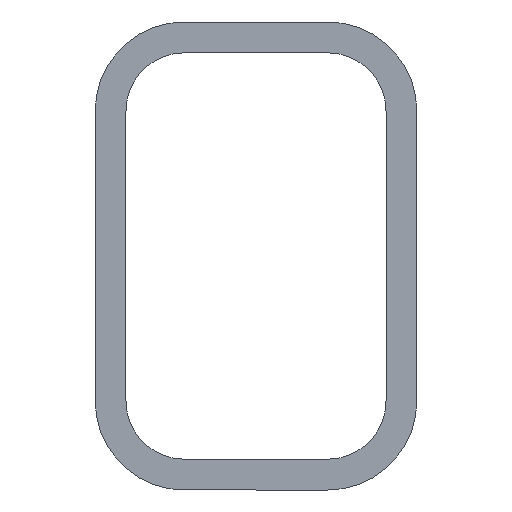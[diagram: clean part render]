
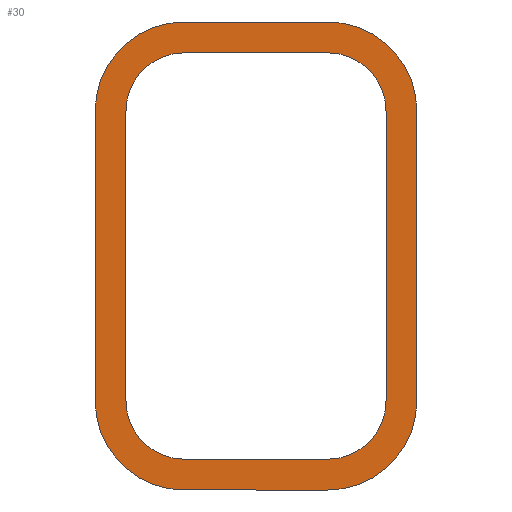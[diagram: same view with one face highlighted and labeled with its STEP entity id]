
A CAD part, front view. The second image highlights one B-rep face of the part: STEP entity #30.
In plain terms, the highlighted planar face has unit normal (0, -1, 0).
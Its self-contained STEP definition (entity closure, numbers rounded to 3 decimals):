
#13 = AXIS2_PLACEMENT_3D ( 'NONE', #159, #66, #486 ) ;
#17 = VERTEX_POINT ( 'NONE', #442 ) ;
#20 = FACE_OUTER_BOUND ( 'NONE', #224, .T. ) ;
#21 = EDGE_CURVE ( 'NONE', #289, #375, #392, .T. ) ;
#26 = CARTESIAN_POINT ( 'NONE',  ( -12.235, 0., -34.735 ) ) ;
#27 = EDGE_CURVE ( 'NONE', #454, #384, #568, .T. ) ;
#29 = CARTESIAN_POINT ( 'NONE',  ( -22.235, 0., 24.735 ) ) ;
#30 = ADVANCED_FACE ( 'NONE', ( #20, #478 ), #580, .F. ) ;
#31 = CARTESIAN_POINT ( 'NONE',  ( 22.235, 0., 24.735 ) ) ;
#32 = CARTESIAN_POINT ( 'NONE',  ( -22.235, 0., -24.735 ) ) ;
#33 = CARTESIAN_POINT ( 'NONE',  ( 27.5, 0., 24.735 ) ) ;
#37 = CARTESIAN_POINT ( 'NONE',  ( 27.5, 0., 24.735 ) ) ;
#41 = CARTESIAN_POINT ( 'NONE',  ( -12.235, 0., 40. ) ) ;
#43 = CARTESIAN_POINT ( 'NONE',  ( 22.235, 0., 24.735 ) ) ;
#52 = CARTESIAN_POINT ( 'NONE',  ( -12.235, 0., 24.735 ) ) ;
#59 = AXIS2_PLACEMENT_3D ( 'NONE', #471, #386, #335 ) ;
#62 = EDGE_CURVE ( 'NONE', #384, #211, #207, .T. ) ;
#66 = DIRECTION ( 'NONE',  ( 0., 1., 0. ) ) ;
#70 = EDGE_CURVE ( 'NONE', #267, #510, #528, .T. ) ;
#74 = DIRECTION ( 'NONE',  ( 0., 0., 1. ) ) ;
#80 = EDGE_CURVE ( 'NONE', #94, #309, #140, .T. ) ;
#85 = VERTEX_POINT ( 'NONE', #43 ) ;
#87 = EDGE_CURVE ( 'NONE', #375, #503, #327, .T. ) ;
#88 = CIRCLE ( 'NONE', #533, 10. ) ;
#89 = DIRECTION ( 'NONE',  ( 0., 0., -1. ) ) ;
#94 = VERTEX_POINT ( 'NONE', #33 ) ;
#95 = VECTOR ( 'NONE', #555, 1000. ) ;
#98 = ORIENTED_EDGE ( 'NONE', *, *, #599, .T. ) ;
#100 = VECTOR ( 'NONE', #441, 1000. ) ;
#101 = ORIENTED_EDGE ( 'NONE', *, *, #87, .T. ) ;
#103 = AXIS2_PLACEMENT_3D ( 'NONE', #180, #320, #219 ) ;
#104 = DIRECTION ( 'NONE',  ( 0., 0., 1. ) ) ;
#113 = CARTESIAN_POINT ( 'NONE',  ( -12.235, 0., 40. ) ) ;
#114 = LINE ( 'NONE', #31, #508 ) ;
#129 = ORIENTED_EDGE ( 'NONE', *, *, #80, .F. ) ;
#133 = CARTESIAN_POINT ( 'NONE',  ( 12.235, 0., -34.735 ) ) ;
#134 = CARTESIAN_POINT ( 'NONE',  ( 27.5, 0., -24.735 ) ) ;
#140 = LINE ( 'NONE', #37, #463 ) ;
#142 = LINE ( 'NONE', #333, #493 ) ;
#145 = CARTESIAN_POINT ( 'NONE',  ( 12.235, 0., -24.735 ) ) ;
#159 = CARTESIAN_POINT ( 'NONE',  ( 12.235, 0., 24.735 ) ) ;
#161 = DIRECTION ( 'NONE',  ( 0., 0., 1. ) ) ;
#168 = DIRECTION ( 'NONE',  ( 0., 0., -1. ) ) ;
#175 = AXIS2_PLACEMENT_3D ( 'NONE', #328, #516, #104 ) ;
#180 = CARTESIAN_POINT ( 'NONE',  ( -12.235, 0., 24.735 ) ) ;
#195 = VERTEX_POINT ( 'NONE', #364 ) ;
#197 = DIRECTION ( 'NONE',  ( 0., 0., 1. ) ) ;
#198 = AXIS2_PLACEMENT_3D ( 'NONE', #253, #350, #74 ) ;
#199 = ORIENTED_EDGE ( 'NONE', *, *, #353, .T. ) ;
#201 = ORIENTED_EDGE ( 'NONE', *, *, #273, .T. ) ;
#207 = LINE ( 'NONE', #387, #402 ) ;
#211 = VERTEX_POINT ( 'NONE', #308 ) ;
#219 = DIRECTION ( 'NONE',  ( 0., 0., 1. ) ) ;
#224 = EDGE_LOOP ( 'NONE', ( #230, #518, #506, #494, #426, #129, #433, #456 ) ) ;
#229 = DIRECTION ( 'NONE',  ( 0., 1., 0. ) ) ;
#230 = ORIENTED_EDGE ( 'NONE', *, *, #522, .F. ) ;
#235 = CARTESIAN_POINT ( 'NONE',  ( -12.235, 0., -34.735 ) ) ;
#251 = CARTESIAN_POINT ( 'NONE',  ( -27.5, 0., -24.735 ) ) ;
#253 = CARTESIAN_POINT ( 'NONE',  ( -12.235, 0., -24.735 ) ) ;
#258 = CIRCLE ( 'NONE', #59, 15.265 ) ;
#260 = VERTEX_POINT ( 'NONE', #133 ) ;
#263 = CIRCLE ( 'NONE', #466, 10. ) ;
#267 = VERTEX_POINT ( 'NONE', #41 ) ;
#272 = CARTESIAN_POINT ( 'NONE',  ( 12.235, 0., 40. ) ) ;
#273 = EDGE_CURVE ( 'NONE', #260, #561, #416, .T. ) ;
#276 = DIRECTION ( 'NONE',  ( 1., 0., 0. ) ) ;
#285 = DIRECTION ( 'NONE',  ( 0., 1., 0. ) ) ;
#289 = VERTEX_POINT ( 'NONE', #32 ) ;
#295 = DIRECTION ( 'NONE',  ( 1., 0., 0. ) ) ;
#297 = DIRECTION ( 'NONE',  ( 0., 1., 0. ) ) ;
#298 = AXIS2_PLACEMENT_3D ( 'NONE', #586, #432, #161 ) ;
#303 = EDGE_CURVE ( 'NONE', #17, #454, #312, .T. ) ;
#308 = CARTESIAN_POINT ( 'NONE',  ( -27.5, 0., 24.735 ) ) ;
#309 = VERTEX_POINT ( 'NONE', #134 ) ;
#312 = LINE ( 'NONE', #491, #95 ) ;
#317 = ORIENTED_EDGE ( 'NONE', *, *, #21, .T. ) ;
#320 = DIRECTION ( 'NONE',  ( 0., 1., 0. ) ) ;
#327 = CIRCLE ( 'NONE', #103, 10. ) ;
#328 = CARTESIAN_POINT ( 'NONE',  ( -12.235, 0., -24.735 ) ) ;
#329 = CIRCLE ( 'NONE', #415, 15.265 ) ;
#333 = CARTESIAN_POINT ( 'NONE',  ( -12.235, 0., 34.735 ) ) ;
#335 = DIRECTION ( 'NONE',  ( 0., 0., 1. ) ) ;
#336 = ORIENTED_EDGE ( 'NONE', *, *, #475, .T. ) ;
#339 = CIRCLE ( 'NONE', #175, 10. ) ;
#342 = DIRECTION ( 'NONE',  ( 0., 0., 1. ) ) ;
#350 = DIRECTION ( 'NONE',  ( 0., 1., 0. ) ) ;
#353 = EDGE_CURVE ( 'NONE', #85, #195, #114, .T. ) ;
#363 = CARTESIAN_POINT ( 'NONE',  ( 12.235, 0., 34.735 ) ) ;
#364 = CARTESIAN_POINT ( 'NONE',  ( 22.235, 0., -24.735 ) ) ;
#367 = CARTESIAN_POINT ( 'NONE',  ( -12.235, 0., -40. ) ) ;
#369 = DIRECTION ( 'NONE',  ( 0., 0., 1. ) ) ;
#371 = VECTOR ( 'NONE', #457, 1000. ) ;
#375 = VERTEX_POINT ( 'NONE', #391 ) ;
#381 = ORIENTED_EDGE ( 'NONE', *, *, #418, .T. ) ;
#384 = VERTEX_POINT ( 'NONE', #251 ) ;
#386 = DIRECTION ( 'NONE',  ( 0., 1., 0. ) ) ;
#387 = CARTESIAN_POINT ( 'NONE',  ( -27.5, 0., 24.735 ) ) ;
#391 = CARTESIAN_POINT ( 'NONE',  ( -22.235, 0., 24.735 ) ) ;
#392 = LINE ( 'NONE', #29, #100 ) ;
#393 = EDGE_CURVE ( 'NONE', #510, #94, #564, .T. ) ;
#402 = VECTOR ( 'NONE', #342, 1000. ) ;
#415 = AXIS2_PLACEMENT_3D ( 'NONE', #52, #285, #369 ) ;
#416 = LINE ( 'NONE', #235, #371 ) ;
#418 = EDGE_CURVE ( 'NONE', #195, #260, #263, .T. ) ;
#421 = VERTEX_POINT ( 'NONE', #363 ) ;
#423 = CARTESIAN_POINT ( 'NONE',  ( -12.235, 0., 34.735 ) ) ;
#426 = ORIENTED_EDGE ( 'NONE', *, *, #591, .F. ) ;
#432 = DIRECTION ( 'NONE',  ( 0., 1., 0. ) ) ;
#433 = ORIENTED_EDGE ( 'NONE', *, *, #393, .F. ) ;
#435 = CARTESIAN_POINT ( 'NONE',  ( 12.235, 0., 24.735 ) ) ;
#440 = EDGE_CURVE ( 'NONE', #503, #421, #142, .T. ) ;
#441 = DIRECTION ( 'NONE',  ( 0., 0., 1. ) ) ;
#442 = CARTESIAN_POINT ( 'NONE',  ( 12.235, 0., -40. ) ) ;
#454 = VERTEX_POINT ( 'NONE', #367 ) ;
#456 = ORIENTED_EDGE ( 'NONE', *, *, #70, .F. ) ;
#457 = DIRECTION ( 'NONE',  ( -1., 0., 0. ) ) ;
#460 = EDGE_LOOP ( 'NONE', ( #101, #566, #98, #199, #381, #201, #336, #317 ) ) ;
#463 = VECTOR ( 'NONE', #89, 1000. ) ;
#466 = AXIS2_PLACEMENT_3D ( 'NONE', #145, #229, #197 ) ;
#471 = CARTESIAN_POINT ( 'NONE',  ( 12.235, 0., -24.735 ) ) ;
#475 = EDGE_CURVE ( 'NONE', #561, #289, #339, .T. ) ;
#478 = FACE_BOUND ( 'NONE', #460, .T. ) ;
#486 = DIRECTION ( 'NONE',  ( 0., 0., 1. ) ) ;
#491 = CARTESIAN_POINT ( 'NONE',  ( -12.235, 0., -40. ) ) ;
#493 = VECTOR ( 'NONE', #276, 1000. ) ;
#494 = ORIENTED_EDGE ( 'NONE', *, *, #303, .F. ) ;
#503 = VERTEX_POINT ( 'NONE', #423 ) ;
#506 = ORIENTED_EDGE ( 'NONE', *, *, #27, .F. ) ;
#508 = VECTOR ( 'NONE', #168, 1000. ) ;
#510 = VERTEX_POINT ( 'NONE', #272 ) ;
#516 = DIRECTION ( 'NONE',  ( 0., 1., 0. ) ) ;
#518 = ORIENTED_EDGE ( 'NONE', *, *, #62, .F. ) ;
#522 = EDGE_CURVE ( 'NONE', #211, #267, #329, .T. ) ;
#528 = LINE ( 'NONE', #113, #597 ) ;
#533 = AXIS2_PLACEMENT_3D ( 'NONE', #435, #297, #578 ) ;
#555 = DIRECTION ( 'NONE',  ( -1., 0., 0. ) ) ;
#561 = VERTEX_POINT ( 'NONE', #26 ) ;
#564 = CIRCLE ( 'NONE', #13, 15.265 ) ;
#566 = ORIENTED_EDGE ( 'NONE', *, *, #440, .T. ) ;
#568 = CIRCLE ( 'NONE', #198, 15.265 ) ;
#578 = DIRECTION ( 'NONE',  ( 0., 0., 1. ) ) ;
#580 = PLANE ( 'NONE',  #298 ) ;
#586 = CARTESIAN_POINT ( 'NONE',  ( -12.235, 0., 24.735 ) ) ;
#591 = EDGE_CURVE ( 'NONE', #309, #17, #258, .T. ) ;
#597 = VECTOR ( 'NONE', #295, 1000. ) ;
#599 = EDGE_CURVE ( 'NONE', #421, #85, #88, .T. ) ;
